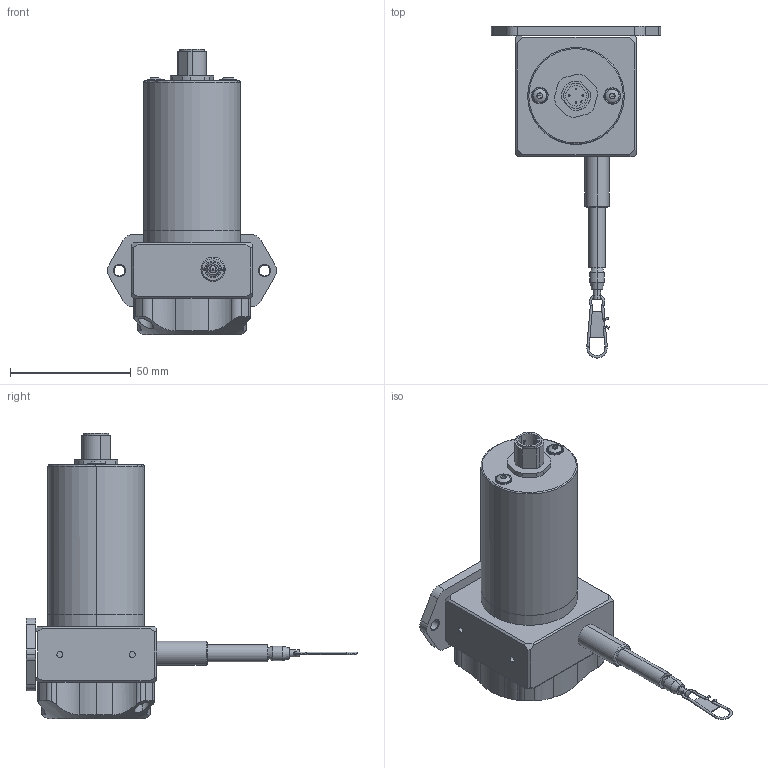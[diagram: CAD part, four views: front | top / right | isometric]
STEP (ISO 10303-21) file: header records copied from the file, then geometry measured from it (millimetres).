
FILE_DESCRIPTION (( 'STEP AP214' ), '1' );
FILE_NAME ('D8.3A1.0025.A113.0000.STEP', '2010-11-23T13:08:20', ( 'admin' ), ( 'Fritz Kübler GmbH' ), 'SwSTEP 2.0', 'SolidWorks 2009', '' );
FILE_SCHEMA (( 'AUTOMOTIVE_DESIGN' ));
Length unit declared in the file: millimetre
Products named in the file (1): D8.3A1.0025.A113.0000
Bounding box: 70 x 137.32 x 118 mm (x, y, z)
Surface area: 29873.8 mm2 (no closed solid volume)
Topology: 0 solids, 19 shells, 261 faces, 758 edges, 502 vertices
Faces by surface type: cylinder 104, plane 97, cone 30, torus 21, bspline 6, sphere 3
Entity records: 14316 total; most frequent: CARTESIAN_POINT 4781, DIRECTION 1365, ORIENTED_EDGE 1342, EDGE_CURVE 744, AXIS2_PLACEMENT_3D 511, VERTEX_POINT 500, VECTOR 343, LINE 343
